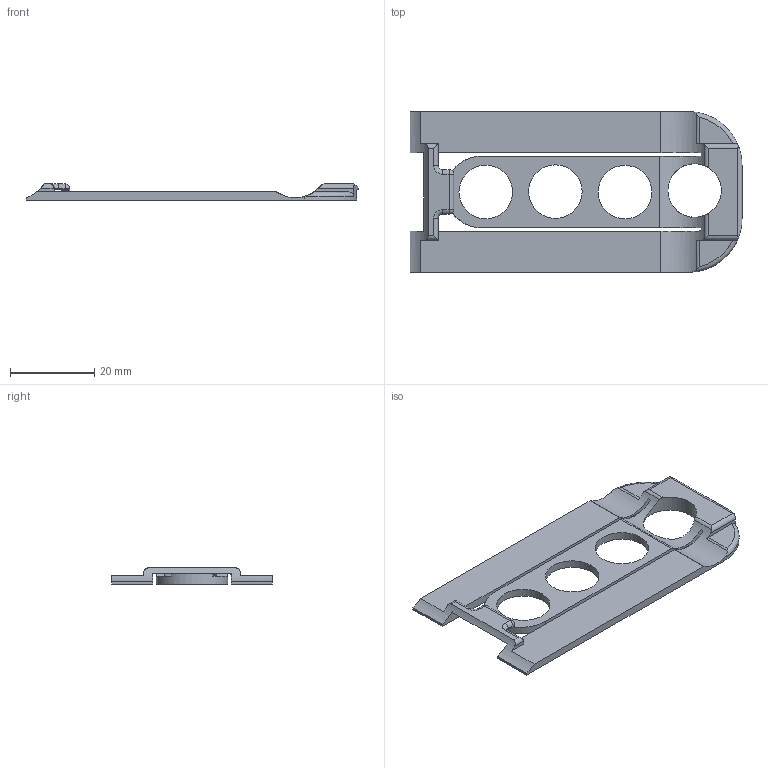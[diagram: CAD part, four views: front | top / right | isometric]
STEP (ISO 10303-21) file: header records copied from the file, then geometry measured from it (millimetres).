
FILE_DESCRIPTION(/* description */ ('Unknown'),/* implementation_level */ '2;1');
FILE_NAME(/* name */ '6414-chucks-lionel-cars',/* time_stamp */ '2023-05-26T13:52:47-05:00',/* author */ ('Val Hubbard'),/* organization */ ('Hubbard Hobbies'),/* preprocessor_version */ 'ST-DEVELOPER v18.1',/* originating_system */ 'Solid Edge',/* authorisation */ 'Unknown');
FILE_SCHEMA (('AUTOMOTIVE_DESIGN {1 0 10303 214 3 1 1}'));
Length unit declared in the file: millimetre
Products named in the file (1): 6414-chucks-lionel-cars
Bounding box: 78.74 x 38.1 x 3.81 mm (x, y, z)
Volume: 4133.6 mm3; surface area: 5810.2 mm2
Topology: 1 solids, 1 shells, 68 faces, 206 edges, 133 vertices
Faces by surface type: cylinder 32, plane 30, torus 4, sphere 2
Full cylindrical faces by diameter (mm): 12.7 x4
Entity records: 2341 total; most frequent: CARTESIAN_POINT 473, ORIENTED_EDGE 392, DIRECTION 383, EDGE_CURVE 196, AXIS2_PLACEMENT_3D 139, VERTEX_POINT 129, LINE 105, VECTOR 105
